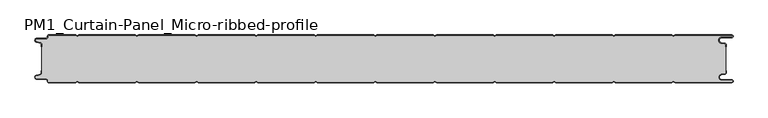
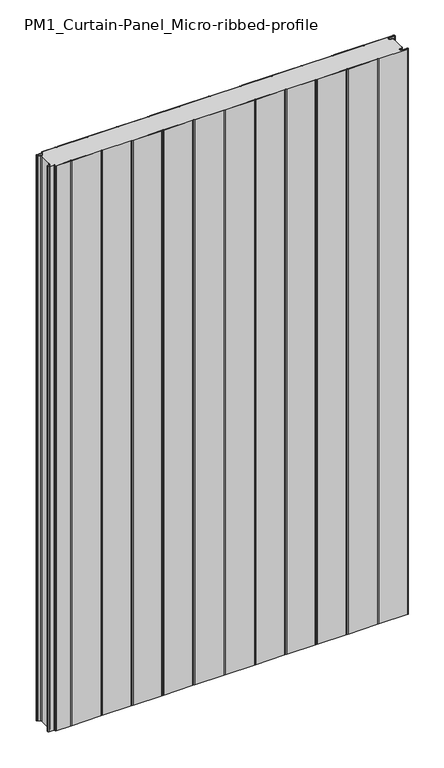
"""IFC4 building model written with IfcOpenShell, lengths in millimetres: plate geometry, PM1_Curtain-Panel_Micro-ribbed-profile : ACH_PM1_Stone-wool-Panel_80M."""

from ifc_helpers import new_model, si_unit, point, frame_2d, origin, origin_with_axes, place, context, project, spatial, polyline, circle_curve, trimmed, segment, composite_curve, outline, extrude, source, transform, mapped, element, save


def pm1_curtain_panel_micro_ribbed_profile_a62dc2c1(model_context):
    return source(origin(), model_context, "Body", "SweptSolid", [
        extrude(outline(composite_curve([segment(trimmed(circle_curve(frame_2d((-577.0, -15.878557)), 2.0), [point((-575.0, -15.878557))], [point((-576.5500978, -13.9298169))], True, "CARTESIAN"), True, "CONTINUOUS"), segment(polyline([(-576.5500978, -13.9298169), (-582.7098239, -12.507732)]), True, "CONTINUOUS"), segment(trimmed(circle_curve(frame_2d((-581.9, -9.0)), 3.6), [point((-582.7098239, -12.507732))], [point((-581.9, -5.4))], False, "CARTESIAN"), True, "CONTINUOUS"), segment(polyline([(-581.9, -5.4), (-566.4, -5.4)]), True, "CONTINUOUS"), segment(trimmed(circle_curve(frame_2d((-566.4, -3.4)), 2.0), [point((-566.4, -5.4))], [point((-564.4, -3.4))], True, "CARTESIAN"), True, "CONTINUOUS"), segment(polyline([(-564.4, -3.4), (-564.4, -2.0)]), True, "CONTINUOUS"), segment(trimmed(circle_curve(frame_2d((-562.4, -2.0)), 2.0), [point((-564.4, -2.0))], [point((-562.4, 0.0))], False, "CARTESIAN"), True, "CONTINUOUS"), segment(polyline([(-562.4, 0.0), (-517.0999995, 0.0), (-514.4, -1.5588455), (-511.7000005, 0.0), (-417.0999995, 0.0), (-414.4, -1.5588455), (-411.7000005, 0.0), (-317.0999995, 0.0), (-314.4, -1.5588455), (-311.7000005, 0.0), (-217.0999995, 0.0), (-214.4, -1.5588455), (-211.7000005, 0.0), (-117.0999995, 0.0), (-114.4, -1.5588455), (-111.7000005, 0.0), (-17.0999995, 0.0), (-14.4, -1.5588455), (-11.7000005, 0.0), (82.9000005, 0.0), (85.6, -1.5588455), (88.2999995, 0.0), (182.9000005, 0.0), (185.6, -1.5588455), (188.2999995, 0.0), (282.9000005, 0.0), (285.6, -1.5588455), (288.2999995, 0.0), (382.9000005, 0.0), (385.6, -1.5588455), (388.2999995, 0.0), (482.9000005, 0.0), (485.6, -1.5588455), (488.2999995, 0.0), (583.1, 0.0)]), True, "CONTINUOUS"), segment(trimmed(circle_curve(frame_2d((583.1, -2.5)), 2.5), [point((583.1, 0.0))], [point((583.1, -5.0))], False, "CARTESIAN"), True, "CONTINUOUS"), segment(polyline([(583.1, -5.0), (566.1, -5.0)]), True, "CONTINUOUS"), segment(trimmed(circle_curve(frame_2d((566.1, -9.0)), 4.0), [point((566.1, -5.0))], [point((565.405407, -12.939231))], True, "CARTESIAN"), True, "CONTINUOUS"), segment(polyline([(565.405407, -12.939231), (571.8514855, -14.0758491)]), True, "CONTINUOUS"), segment(trimmed(circle_curve(frame_2d((571.4, -16.6363492)), 2.6), [point((571.8514855, -14.0758491))], [point((574.0, -16.6363492))], False, "CARTESIAN"), True, "CONTINUOUS"), segment(polyline([(574.0, -16.6363492), (574.0, -20.0), (573.2, -20.0), (573.2, -16.6363492)]), True, "CONTINUOUS"), segment(trimmed(circle_curve(frame_2d((571.4, -16.6363492)), 1.8), [point((573.2, -16.6363492))], [point((571.7125669, -14.8636953))], True, "CARTESIAN"), True, "CONTINUOUS"), segment(polyline([(571.7125669, -14.8636953), (565.2664884, -13.7270772)]), True, "CONTINUOUS"), segment(trimmed(circle_curve(frame_2d((566.1, -9.0)), 4.8), [point((565.2664884, -13.7270772))], [point((566.1, -4.2))], False, "CARTESIAN"), True, "CONTINUOUS"), segment(polyline([(566.1, -4.2), (583.1, -4.2)]), True, "CONTINUOUS"), segment(trimmed(circle_curve(frame_2d((583.1, -2.5)), 1.7), [point((583.1, -4.2))], [point((583.1, -0.8))], True, "CARTESIAN"), True, "CONTINUOUS"), segment(polyline([(583.1, -0.8), (488.5143588, -0.8), (485.6, -2.482606), (482.6856412, -0.8), (388.5143588, -0.8), (385.6, -2.482606), (382.6856412, -0.8), (288.5143588, -0.8), (285.6, -2.482606), (282.6856412, -0.8), (188.5143588, -0.8), (185.6, -2.482606), (182.6856412, -0.8), (88.5143588, -0.8), (85.6, -2.482606), (82.6856412, -0.8), (-11.4856412, -0.8), (-14.4, -2.482606), (-17.3143588, -0.8), (-111.4856412, -0.8), (-114.4, -2.482606), (-117.3143588, -0.8), (-211.4856412, -0.8), (-214.4, -2.482606), (-217.3143588, -0.8), (-311.4856412, -0.8), (-314.4, -2.482606), (-317.3143588, -0.8), (-411.4856412, -0.8), (-414.4, -2.482606), (-417.3143588, -0.8), (-511.4856412, -0.8), (-514.4, -2.482606), (-517.3143588, -0.8), (-562.4, -0.8)]), True, "CONTINUOUS"), segment(trimmed(circle_curve(frame_2d((-562.4, -2.0)), 1.2), [point((-562.4, -0.8))], [point((-563.6, -2.0))], True, "CARTESIAN"), True, "CONTINUOUS"), segment(polyline([(-563.6, -2.0), (-563.6, -3.4)]), True, "CONTINUOUS"), segment(trimmed(circle_curve(frame_2d((-566.4, -3.4)), 2.8), [point((-563.6, -3.4))], [point((-566.4, -6.2))], False, "CARTESIAN"), True, "CONTINUOUS"), segment(polyline([(-566.4, -6.2), (-581.9, -6.2)]), True, "CONTINUOUS"), segment(trimmed(circle_curve(frame_2d((-581.9, -9.0)), 2.8), [point((-581.9, -6.2))], [point((-582.529863, -11.7282362))], True, "CARTESIAN"), True, "CONTINUOUS"), segment(polyline([(-582.529863, -11.7282362), (-576.370137, -13.150321)]), True, "CONTINUOUS"), segment(trimmed(circle_curve(frame_2d((-577.0, -15.878557)), 2.8), [point((-576.370137, -13.150321))], [point((-574.2, -15.878557))], False, "CARTESIAN"), True, "CONTINUOUS"), segment(polyline([(-574.2, -15.878557), (-574.2, -20.0), (-575.0, -20.0), (-575.0, -15.878557)]), True, "CONTINUOUS")], self_intersect=False)), origin_with_axes(), (0.0, 0.0, 1.0), 1945.7507136),
        extrude(outline(composite_curve([segment(polyline([(-574.2, -64.1214426), (-574.2, -15.8785573)]), True, "CONTINUOUS"), segment(trimmed(circle_curve(frame_2d((-577.0, -15.8785573)), 2.8), [point((-574.2, -15.8785573))], [point((-576.370137, -13.1503212))], True, "CARTESIAN"), True, "CONTINUOUS"), segment(polyline([(-576.370137, -13.1503212), (-582.5298631, -11.7282362)]), True, "CONTINUOUS"), segment(trimmed(circle_curve(frame_2d((-581.9, -9.0)), 2.8), [point((-582.5298631, -11.7282362))], [point((-581.9, -6.2))], False, "CARTESIAN"), True, "CONTINUOUS"), segment(polyline([(-581.9, -6.2), (-566.4000001, -6.2)]), True, "CONTINUOUS"), segment(trimmed(circle_curve(frame_2d((-566.4000001, -3.4)), 2.8), [point((-566.4000001, -6.2))], [point((-563.6000001, -3.4))], True, "CARTESIAN"), True, "CONTINUOUS"), segment(polyline([(-563.6000001, -3.4), (-563.6000001, -2.0)]), True, "CONTINUOUS"), segment(trimmed(circle_curve(frame_2d((-562.4000001, -2.0)), 1.2), [point((-563.6000001, -2.0))], [point((-562.4000001, -0.8))], False, "CARTESIAN"), True, "CONTINUOUS"), segment(polyline([(-562.4000001, -0.8), (-517.3143589, -0.8), (-514.4000001, -2.482606), (-511.4856412, -0.8), (-417.3143589, -0.8), (-414.4000001, -2.482606), (-411.4856412, -0.8), (-317.3143589, -0.8), (-314.4000001, -2.482606), (-311.4856412, -0.8), (-217.3143589, -0.8), (-214.4000001, -2.482606), (-211.4856412, -0.8), (-117.3143589, -0.8), (-114.4000001, -2.482606), (-111.4856412, -0.8), (-17.3143589, -0.8), (-14.4000001, -2.482606), (-11.4856412, -0.8), (82.6856411, -0.8), (85.5999999, -2.482606), (88.5143588, -0.8), (182.6856411, -0.8), (185.5999999, -2.482606), (188.5143588, -0.8), (282.6856411, -0.8), (285.5999999, -2.482606), (288.5143588, -0.8), (382.6856411, -0.8), (385.5999999, -2.482606), (388.5143588, -0.8), (482.6856411, -0.8), (485.6, -2.482606), (488.5143588, -0.8), (583.1, -0.8)]), True, "CONTINUOUS"), segment(trimmed(circle_curve(frame_2d((583.1, -2.5)), 1.7), [point((583.1, -0.8))], [point((583.1, -4.2))], False, "CARTESIAN"), True, "CONTINUOUS"), segment(polyline([(583.1, -4.2), (566.1, -4.2)]), True, "CONTINUOUS"), segment(trimmed(circle_curve(frame_2d((566.1, -9.0)), 4.8), [point((566.1, -4.2))], [point((565.2664883, -13.7270771))], True, "CARTESIAN"), True, "CONTINUOUS"), segment(polyline([(565.2664883, -13.7270771), (571.7125668, -14.8636953)]), True, "CONTINUOUS"), segment(trimmed(circle_curve(frame_2d((571.4, -16.6363492)), 1.8), [point((571.7125668, -14.8636953))], [point((573.2, -16.6363492))], False, "CARTESIAN"), True, "CONTINUOUS"), segment(polyline([(573.2, -16.6363492), (573.2, -63.3636508)]), True, "CONTINUOUS"), segment(trimmed(circle_curve(frame_2d((571.4, -63.3636508)), 1.8), [point((573.2, -63.3636508))], [point((571.7125668, -65.1363047))], False, "CARTESIAN"), True, "CONTINUOUS"), segment(polyline([(571.7125668, -65.1363047), (565.2664883, -66.2729229)]), True, "CONTINUOUS"), segment(trimmed(circle_curve(frame_2d((566.1, -71.0)), 4.8), [point((565.2664883, -66.2729229))], [point((566.1, -75.8))], True, "CARTESIAN"), True, "CONTINUOUS"), segment(polyline([(566.1, -75.8), (583.1, -75.8)]), True, "CONTINUOUS"), segment(trimmed(circle_curve(frame_2d((583.1, -77.5)), 1.7), [point((583.1, -75.8))], [point((583.1, -79.2))], False, "CARTESIAN"), True, "CONTINUOUS"), segment(polyline([(583.1, -79.2), (488.5143588, -79.2), (485.6, -77.517394), (482.6856411, -79.2), (388.5143588, -79.2), (385.5999999, -77.517394), (382.6856411, -79.2), (288.5143588, -79.2), (285.5999999, -77.517394), (282.6856411, -79.2), (188.5143588, -79.2), (185.5999999, -77.517394), (182.6856411, -79.2), (88.5143588, -79.2), (85.5999999, -77.517394), (82.6856411, -79.2), (-11.4856412, -79.2), (-14.4000001, -77.517394), (-17.3143589, -79.2), (-111.4856412, -79.2), (-114.4000001, -77.517394), (-117.3143589, -79.2), (-211.4856412, -79.2), (-214.4000001, -77.517394), (-217.3143589, -79.2), (-311.4856412, -79.2), (-314.4000001, -77.517394), (-317.3143589, -79.2), (-411.4856412, -79.2), (-414.4000001, -77.517394), (-417.3143589, -79.2), (-511.4856412, -79.2), (-514.4000001, -77.517394), (-517.3143589, -79.2), (-562.4000001, -79.2)]), True, "CONTINUOUS"), segment(trimmed(circle_curve(frame_2d((-562.4000001, -78.0)), 1.2), [point((-562.4000001, -79.2))], [point((-563.6000001, -78.0))], False, "CARTESIAN"), True, "CONTINUOUS"), segment(polyline([(-563.6000001, -78.0), (-563.6000001, -76.6)]), True, "CONTINUOUS"), segment(trimmed(circle_curve(frame_2d((-566.4000001, -76.6)), 2.8), [point((-563.6000001, -76.6))], [point((-566.4000001, -73.8))], True, "CARTESIAN"), True, "CONTINUOUS"), segment(polyline([(-566.4000001, -73.8), (-581.9, -73.8)]), True, "CONTINUOUS"), segment(trimmed(circle_curve(frame_2d((-581.9, -71.0)), 2.8), [point((-581.9, -73.8))], [point((-582.5298631, -68.2717638))], False, "CARTESIAN"), True, "CONTINUOUS"), segment(polyline([(-582.5298631, -68.2717638), (-576.370137, -66.8496788)]), True, "CONTINUOUS"), segment(trimmed(circle_curve(frame_2d((-577.0, -64.1214426)), 2.8), [point((-576.370137, -66.8496788))], [point((-574.2, -64.1214426))], True, "CARTESIAN"), True, "CONTINUOUS")], self_intersect=False)), origin_with_axes(), (0.0, 0.0, 1.0), 1945.7507136),
        extrude(outline(composite_curve([segment(polyline([(-575.0, -64.121443), (-575.0, -60.0), (-574.2, -60.0), (-574.2, -64.121443)]), True, "CONTINUOUS"), segment(trimmed(circle_curve(frame_2d((-577.0, -64.121443)), 2.8), [point((-574.2, -64.121443))], [point((-576.370137, -66.8496792))], False, "CARTESIAN"), True, "CONTINUOUS"), segment(polyline([(-576.370137, -66.8496792), (-582.529863, -68.271764)]), True, "CONTINUOUS"), segment(trimmed(circle_curve(frame_2d((-581.9, -71.0)), 2.8), [point((-582.529863, -68.271764))], [point((-581.9, -73.8))], True, "CARTESIAN"), True, "CONTINUOUS"), segment(polyline([(-581.9, -73.8), (-566.4, -73.8)]), True, "CONTINUOUS"), segment(trimmed(circle_curve(frame_2d((-566.4, -76.6)), 2.8), [point((-566.4, -73.8))], [point((-563.6, -76.6))], False, "CARTESIAN"), True, "CONTINUOUS"), segment(polyline([(-563.6, -76.6), (-563.6, -78.0)]), True, "CONTINUOUS"), segment(trimmed(circle_curve(frame_2d((-562.4, -78.0)), 1.2), [point((-563.6, -78.0))], [point((-562.4, -79.2))], True, "CARTESIAN"), True, "CONTINUOUS"), segment(polyline([(-562.4, -79.2), (-517.3143588, -79.2), (-514.4, -77.517394), (-511.4856412, -79.2), (-417.3143588, -79.2), (-414.4, -77.517394), (-411.4856412, -79.2), (-317.3143588, -79.2), (-314.4, -77.517394), (-311.4856412, -79.2), (-217.3143588, -79.2), (-214.4, -77.517394), (-211.4856412, -79.2), (-117.3143588, -79.2), (-114.4, -77.517394), (-111.4856412, -79.2), (-17.3143588, -79.2), (-14.4, -77.517394), (-11.4856412, -79.2), (82.6856412, -79.2), (85.6, -77.517394), (88.5143588, -79.2), (182.6856412, -79.2), (185.6, -77.517394), (188.5143588, -79.2), (282.6856412, -79.2), (285.6, -77.517394), (288.5143588, -79.2), (382.6856412, -79.2), (385.6, -77.517394), (388.5143588, -79.2), (482.6856412, -79.2), (485.6, -77.517394), (488.5143588, -79.2), (583.1, -79.2)]), True, "CONTINUOUS"), segment(trimmed(circle_curve(frame_2d((583.1, -77.5)), 1.7), [point((583.1, -79.2))], [point((583.1, -75.8))], True, "CARTESIAN"), True, "CONTINUOUS"), segment(polyline([(583.1, -75.8), (566.1, -75.8)]), True, "CONTINUOUS"), segment(trimmed(circle_curve(frame_2d((566.1, -71.0)), 4.8), [point((566.1, -75.8))], [point((565.2664884, -66.2729229))], False, "CARTESIAN"), True, "CONTINUOUS"), segment(polyline([(565.2664884, -66.2729229), (571.7125669, -65.1363047)]), True, "CONTINUOUS"), segment(trimmed(circle_curve(frame_2d((571.4, -63.3636508)), 1.8), [point((571.7125669, -65.1363047))], [point((573.2, -63.3636508))], True, "CARTESIAN"), True, "CONTINUOUS"), segment(polyline([(573.2, -63.3636508), (573.2, -60.0), (574.0, -60.0), (574.0, -63.3636508)]), True, "CONTINUOUS"), segment(trimmed(circle_curve(frame_2d((571.4, -63.3636508)), 2.6), [point((574.0, -63.3636508))], [point((571.8514855, -65.9241509))], False, "CARTESIAN"), True, "CONTINUOUS"), segment(polyline([(571.8514855, -65.9241509), (565.405407, -67.060769)]), True, "CONTINUOUS"), segment(trimmed(circle_curve(frame_2d((566.1, -71.0)), 4.0), [point((565.405407, -67.060769))], [point((566.1, -75.0))], True, "CARTESIAN"), True, "CONTINUOUS"), segment(polyline([(566.1, -75.0), (583.1, -75.0)]), True, "CONTINUOUS"), segment(trimmed(circle_curve(frame_2d((583.1, -77.5)), 2.5), [point((583.1, -75.0))], [point((583.1, -80.0))], False, "CARTESIAN"), True, "CONTINUOUS"), segment(polyline([(583.1, -80.0), (488.2999995, -80.0), (485.6, -78.4411545), (482.9000005, -80.0), (388.2999995, -80.0), (385.6, -78.4411545), (382.9000005, -80.0), (288.2999995, -80.0), (285.6, -78.4411545), (282.9000005, -80.0), (188.2999995, -80.0), (185.6, -78.4411545), (182.9000005, -80.0), (88.2999995, -80.0), (85.6, -78.4411545), (82.9000005, -80.0), (-11.7000005, -80.0), (-14.4, -78.4411545), (-17.0999995, -80.0), (-111.7000005, -80.0), (-114.4, -78.4411545), (-117.0999995, -80.0), (-211.7000005, -80.0), (-214.4, -78.4411545), (-217.0999995, -80.0), (-311.7000005, -80.0), (-314.4, -78.4411545), (-317.0999995, -80.0), (-411.7000005, -80.0), (-414.4, -78.4411545), (-417.0999995, -80.0), (-511.7000005, -80.0), (-514.4, -78.4411545), (-517.0999995, -80.0), (-562.4, -80.0)]), True, "CONTINUOUS"), segment(trimmed(circle_curve(frame_2d((-562.4, -78.0)), 2.0), [point((-562.4, -80.0))], [point((-564.4, -78.0))], False, "CARTESIAN"), True, "CONTINUOUS"), segment(polyline([(-564.4, -78.0), (-564.4, -76.6)]), True, "CONTINUOUS"), segment(trimmed(circle_curve(frame_2d((-566.4, -76.6)), 2.0), [point((-564.4, -76.6))], [point((-566.4, -74.6))], True, "CARTESIAN"), True, "CONTINUOUS"), segment(polyline([(-566.4, -74.6), (-581.9, -74.6)]), True, "CONTINUOUS"), segment(trimmed(circle_curve(frame_2d((-581.9, -71.0)), 3.6), [point((-581.9, -74.6))], [point((-582.7098239, -67.4922678))], False, "CARTESIAN"), True, "CONTINUOUS"), segment(polyline([(-582.7098239, -67.4922678), (-576.5500979, -66.070183)]), True, "CONTINUOUS"), segment(trimmed(circle_curve(frame_2d((-577.0, -64.121443)), 2.0), [point((-576.5500979, -66.070183))], [point((-575.0, -64.121443))], True, "CARTESIAN"), True, "CONTINUOUS")], self_intersect=False)), origin_with_axes(), (0.0, 0.0, 1.0), 1945.7507136),
    ])


if __name__ == "__main__":
    model = new_model("IFC4")
    model_context = context("Model", 3, world=origin())
    ifc_project = project(units=[si_unit("LENGTHUNIT", "METRE", prefix="MILLI")], contexts=[model_context])
    site = spatial("IfcSite", under=ifc_project)
    building = spatial("IfcBuilding", under=site)
    placement = place(None, origin())
    pm1_curtain_panel_micro_ribbed_profile_shape = pm1_curtain_panel_micro_ribbed_profile_a62dc2c1(model_context)
    element("IfcPlate", 1, ObjectType="PM1_Curtain-Panel_Micro-ribbed-profile : ACH_PM1_Stone-wool-Panel_80M", at=placement, inside=building, context=model_context, shape_type="MappedRepresentation", body=[
        mapped(pm1_curtain_panel_micro_ribbed_profile_shape, transform((0.0, 0.0, 0.0), x_axis=(1.0, 0.0, 0.0), y_axis=(0.0, 1.0, 0.0), z_axis=(0.0, 0.0, 1.0))),
    ])
    save(model, "model.ifc")
